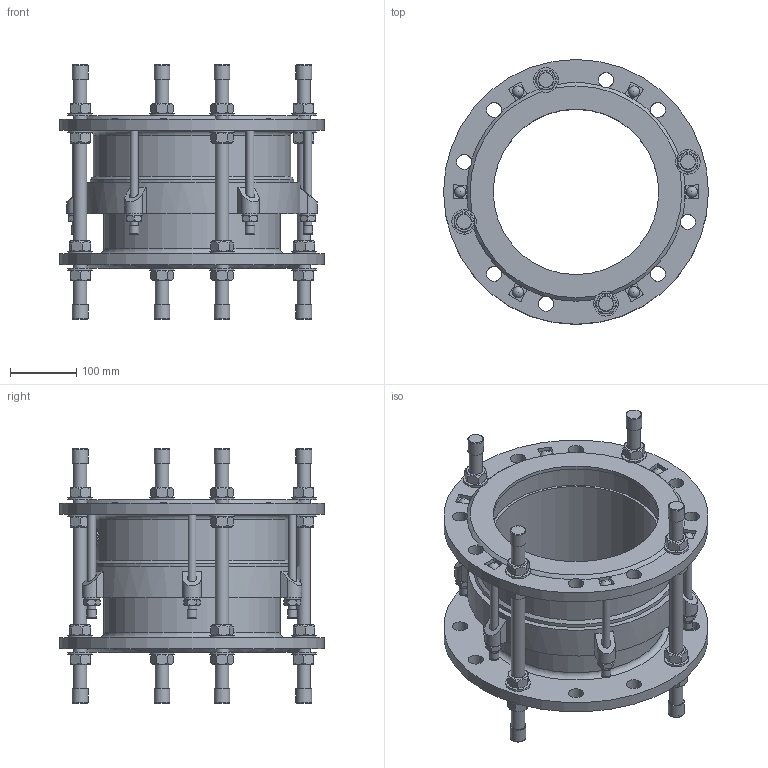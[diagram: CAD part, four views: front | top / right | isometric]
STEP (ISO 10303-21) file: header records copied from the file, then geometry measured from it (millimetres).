
FILE_DESCRIPTION(('STEP AP242'), '1');
FILE_NAME('Ìîíòàæíàÿ âñòàâêà', '', ('UNSPECIFIED'), ('UNSPECIFIED'), 'C3D Converter', 'C3D Toolkit', '');
FILE_SCHEMA(('AP242_MANAGED_MODEL_BASED_3D_ENGINEERING_MIM_LF { 1 0 10303 442 1 1 4 }'));
Length unit declared in the file: millimetre
Products named in the file (13): ШМ.М16.310
Assembly tree (72 placements, depth 2):
  (unnamed)
    (unnamed)
    (unnamed)
    (unnamed)
    (unnamed)  x16
    (unnamed)  x16
    ШМ.М16.310  x4
    (unnamed)  x8
    (unnamed)
    (unnamed)  x6
    (unnamed)  x6
    (unnamed)  x6
    (unnamed)  x6
Bounding box: 400 x 400 x 384 mm (x, y, z)
Volume: 6648775.5 mm3; surface area: 1374567.1 mm2
Topology: 72 solids, 72 shells, 794 faces, 1786 edges, 1134 vertices
Faces by surface type: plane 465, cylinder 187, cone 109, torus 16, extrusion 11, sphere 6
Full cylindrical faces by diameter (mm): 12 x18, 13 x6, 14 x6, 14.4 x6, 20 x28, 21 x16, 23 x24, 24 x14, 27.455 x1, 37 x16, 250 x2, 266 x2, 274 x2, 298 x1, 306 x1, 307 x1, 311 x1, 327 x1, 400 x2
Entity records: 18512 total; most frequent: CARTESIAN_POINT 8779, DIRECTION 1600, ORIENTED_EDGE 1420, EDGE_CURVE 710, AXIS2_PLACEMENT_3D 653, VERTEX_POINT 511, EDGE_LOOP 449, FACE_BOUND 331
